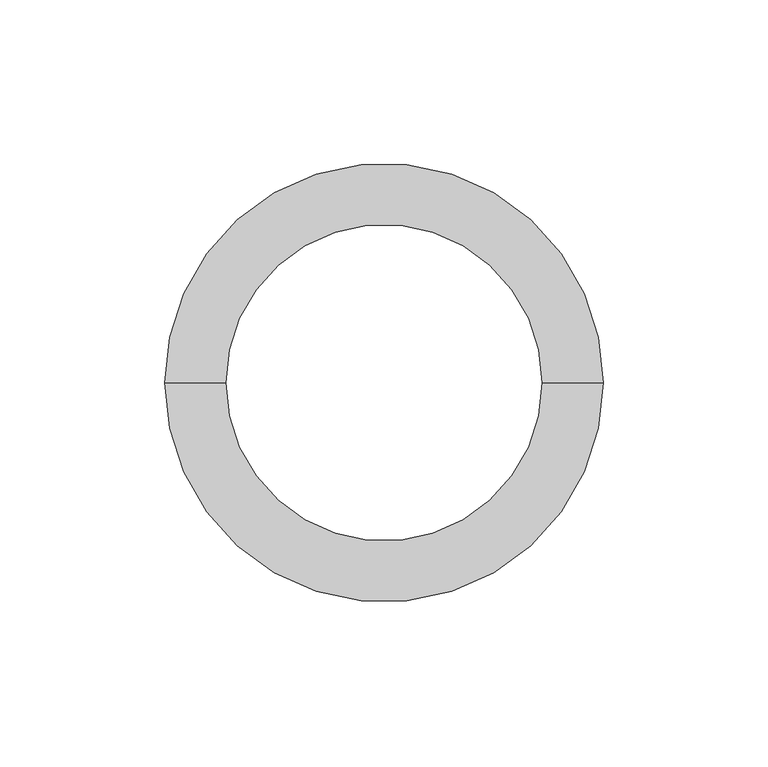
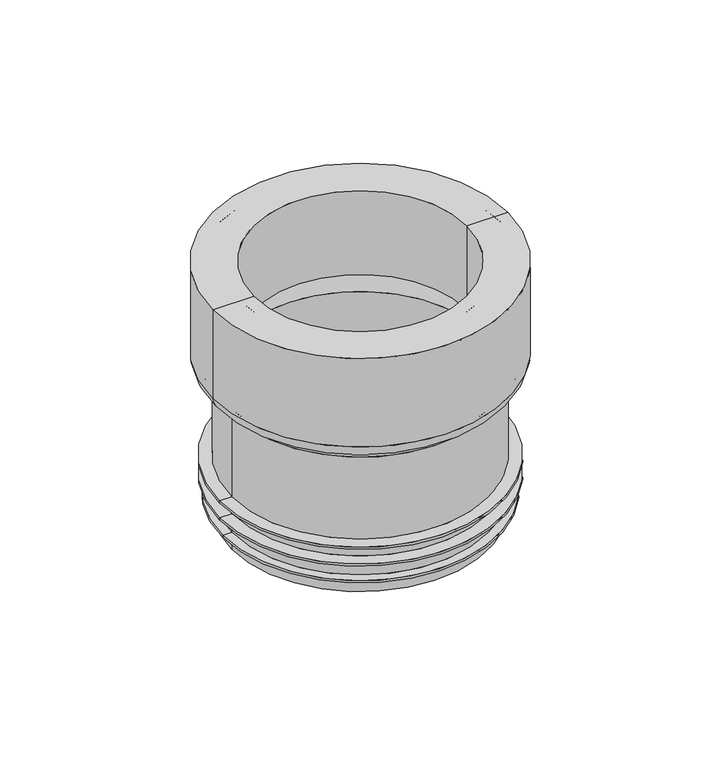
"""IFC4 building model written with IfcOpenShell, lengths in millimetres: sanitary terminal geometry, RSen_52_PIF_UN_closet connector no.4 w_wisa : closet connector_wisa_no 4 w white."""

from ifc_helpers import new_model, si_unit, point, frame, origin, origin_with_axes, place, context, project, spatial, polyline, circle_curve, ellipse_curve, trimmed, source, transform, mapped, element, save
from ifc_brep_helpers import plane_surface, cylinder_surface, revolved_surface, advanced_brep


def sanitary_terminal_8a359ba6(model_context):
    return source(origin(), model_context, "Body", "AdvancedBrep", [
        advanced_brep(
        [(-62.0, 0.0, -110.0), (62.0, 0.0, -110.0), (58.0, 0.0, -110.0), (-58.0, 0.0, -110.0), (-62.0, 0.0, -109.0), (62.0, 0.0, -109.0), (-58.0, 0.0, -109.0), (58.0, 0.0, -109.0), (-58.0, 0.0, -101.0), (58.0, 0.0, -101.0), (-63.5, 0.0, -101.0), (63.5, 0.0, -101.0), (-63.5, 0.0, -100.0363869), (63.5, 0.0, -100.0363869), (-58.0, 0.0, -100.0363869), (58.0, 0.0, -100.0363869), (-58.0, 0.0, -93.0363869), (58.0, 0.0, -93.0363869), (-63.5, 0.0, -93.0363869), (63.5, 0.0, -93.0363869), (-63.5, 0.0, -92.0409026), (63.5, 0.0, -92.0409026), (-58.0, 0.0, -92.0409026), (58.0, 0.0, -92.0409026), (-58.0, 0.0, -52.9576844), (58.0, 0.0, -52.9576844), (-66.5, 0.0, 0.0), (66.5, 0.0, 0.0), (66.5, 0.0, -42.1616545), (-66.5, 0.0, -42.1616545), (-48.0, 0.0, 0.0), (48.0, 0.0, 0.0), (-48.0, 0.0, -40.0), (48.0, 0.0, -40.0), (-58.0, 0.0, -117.0), (58.0, 0.0, -117.0), (55.0, 0.0, -117.0), (-55.0, 0.0, -117.0), (-51.0, 0.0, -40.0), (51.0, 0.0, -40.0), (-51.0, 0.0, -4.5), (51.0, 0.0, -4.5), (-52.5, 0.0, -3.0), (52.5, 0.0, -3.0), (-62.0, 0.0, -3.0), (62.0, 0.0, -3.0), (-63.5, 0.0, -4.5), (63.5, 0.0, -4.5), (-63.5, 0.0, -42.1616545), (63.5, 0.0, -42.1616545), (55.0, 0.0, -52.9576844), (-55.0, 0.0, -52.9576844), (-60.6319194, 0.0, -49.1989139), (60.6319194, 0.0, -49.1989139), (-61.894141, 0.0, -48.7395028), (61.894141, 0.0, -48.7395028), (-60.8680806, 0.0, -45.920425), (60.8680806, 0.0, -45.920425), (-59.605859, 0.0, -46.3798361), (59.605859, 0.0, -46.3798361)],
        [
            (0, 1, circle_curve(frame((0.0, 0.0, -110.0), z_axis=(0.0, 0.0, -1.0), x_axis=(1.0, 0.0, 0.0)), 62.0)),
            (1, 2),
            (2, 3, circle_curve(frame((0.0, 0.0, -110.0), z_axis=(0.0, 0.0, 1.0), x_axis=(1.0, 0.0, 0.0)), 58.0)),
            (3, 0),
            (1, 0, circle_curve(frame((0.0, 0.0, -110.0), z_axis=(0.0, 0.0, -1.0), x_axis=(1.0, 0.0, 0.0)), 62.0)),
            (3, 2, circle_curve(frame((0.0, 0.0, -110.0), z_axis=(0.0, 0.0, 1.0), x_axis=(1.0, 0.0, 0.0)), 58.0)),
            (4, 5, circle_curve(frame((0.0, 0.0, -109.0), z_axis=(0.0, 0.0, -1.0), x_axis=(1.0, 0.0, 0.0)), 62.0)),
            (5, 1),
            (0, 4),
            (5, 4, circle_curve(frame((0.0, 0.0, -109.0), z_axis=(0.0, 0.0, -1.0), x_axis=(1.0, 0.0, 0.0)), 62.0)),
            (6, 7, circle_curve(frame((0.0, 0.0, -109.0), z_axis=(0.0, 0.0, -1.0), x_axis=(1.0, 0.0, 0.0)), 58.0)),
            (7, 5),
            (4, 6),
            (7, 6, circle_curve(frame((0.0, 0.0, -109.0), z_axis=(0.0, 0.0, -1.0), x_axis=(1.0, 0.0, 0.0)), 58.0)),
            (8, 9, circle_curve(frame((0.0, 0.0, -101.0), z_axis=(0.0, 0.0, -1.0), x_axis=(1.0, 0.0, 0.0)), 58.0)),
            (9, 7),
            (6, 8),
            (9, 8, circle_curve(frame((0.0, 0.0, -101.0), z_axis=(0.0, 0.0, -1.0), x_axis=(1.0, 0.0, 0.0)), 58.0)),
            (10, 11, circle_curve(frame((0.0, 0.0, -101.0), z_axis=(0.0, 0.0, -1.0), x_axis=(1.0, 0.0, 0.0)), 63.5)),
            (11, 9),
            (8, 10),
            (11, 10, circle_curve(frame((0.0, 0.0, -101.0), z_axis=(0.0, 0.0, -1.0), x_axis=(1.0, 0.0, 0.0)), 63.5)),
            (12, 13, circle_curve(frame((0.0, 0.0, -100.0363869), z_axis=(0.0, 0.0, -1.0), x_axis=(1.0, 0.0, 0.0)), 63.5)),
            (13, 11),
            (10, 12),
            (13, 12, circle_curve(frame((0.0, 0.0, -100.0363869), z_axis=(0.0, 0.0, -1.0), x_axis=(1.0, 0.0, 0.0)), 63.5)),
            (14, 15, circle_curve(frame((0.0, 0.0, -100.0363869), z_axis=(0.0, 0.0, -1.0), x_axis=(1.0, 0.0, 0.0)), 58.0)),
            (15, 13),
            (12, 14),
            (15, 14, circle_curve(frame((0.0, 0.0, -100.0363869), z_axis=(0.0, 0.0, -1.0), x_axis=(1.0, 0.0, 0.0)), 58.0)),
            (16, 17, circle_curve(frame((0.0, 0.0, -93.0363869), z_axis=(0.0, 0.0, -1.0), x_axis=(1.0, 0.0, 0.0)), 58.0)),
            (17, 15),
            (14, 16),
            (17, 16, circle_curve(frame((0.0, 0.0, -93.0363869), z_axis=(0.0, 0.0, -1.0), x_axis=(1.0, 0.0, 0.0)), 58.0)),
            (18, 19, circle_curve(frame((0.0, 0.0, -93.0363869), z_axis=(0.0, 0.0, -1.0), x_axis=(1.0, 0.0, 0.0)), 63.5)),
            (19, 17),
            (16, 18),
            (19, 18, circle_curve(frame((0.0, 0.0, -93.0363869), z_axis=(0.0, 0.0, -1.0), x_axis=(1.0, 0.0, 0.0)), 63.5)),
            (20, 21, circle_curve(frame((0.0, 0.0, -92.0409026), z_axis=(0.0, 0.0, -1.0), x_axis=(1.0, 0.0, 0.0)), 63.5)),
            (21, 19),
            (18, 20),
            (21, 20, circle_curve(frame((0.0, 0.0, -92.0409026), z_axis=(0.0, 0.0, -1.0), x_axis=(1.0, 0.0, 0.0)), 63.5)),
            (22, 23, circle_curve(frame((0.0, 0.0, -92.0409026), z_axis=(0.0, 0.0, -1.0), x_axis=(1.0, 0.0, 0.0)), 58.0)),
            (23, 21),
            (20, 22),
            (23, 22, circle_curve(frame((0.0, 0.0, -92.0409026), z_axis=(0.0, 0.0, -1.0), x_axis=(1.0, 0.0, 0.0)), 58.0)),
            (24, 25, circle_curve(frame((0.0, 0.0, -52.9576844), z_axis=(0.0, 0.0, -1.0), x_axis=(1.0, 0.0, 0.0)), 58.0)),
            (25, 23),
            (22, 24),
            (25, 24, circle_curve(frame((0.0, 0.0, -52.9576844), z_axis=(0.0, 0.0, -1.0), x_axis=(1.0, 0.0, 0.0)), 58.0)),
            (26, 27, circle_curve(frame((0.0, 0.0, 0.0), z_axis=(0.0, 0.0, -1.0), x_axis=(1.0, 0.0, 0.0)), 66.5)),
            (27, 28),
            (28, 29, circle_curve(frame((0.0, 0.0, -42.1616545), z_axis=(0.0, 0.0, 1.0), x_axis=(1.0, 0.0, 0.0)), 66.5)),
            (29, 26),
            (27, 26, circle_curve(frame((0.0, 0.0, 0.0), z_axis=(0.0, 0.0, -1.0), x_axis=(1.0, 0.0, 0.0)), 66.5)),
            (29, 28, circle_curve(frame((0.0, 0.0, -42.1616545), z_axis=(0.0, 0.0, 1.0), x_axis=(1.0, 0.0, 0.0)), 66.5)),
            (30, 31, circle_curve(frame((0.0, 0.0, 0.0), z_axis=(0.0, 0.0, -1.0), x_axis=(1.0, 0.0, 0.0)), 48.0)),
            (31, 27),
            (26, 30),
            (31, 30, circle_curve(frame((0.0, 0.0, 0.0), z_axis=(0.0, 0.0, -1.0), x_axis=(1.0, 0.0, 0.0)), 48.0)),
            (32, 33, circle_curve(frame((0.0, 0.0, -40.0), z_axis=(0.0, 0.0, -1.0), x_axis=(1.0, 0.0, 0.0)), 48.0)),
            (33, 31),
            (30, 32),
            (33, 32, circle_curve(frame((0.0, 0.0, -40.0), z_axis=(0.0, 0.0, -1.0), x_axis=(1.0, 0.0, 0.0)), 48.0)),
            (34, 35, circle_curve(frame((0.0, 0.0, -117.0), z_axis=(0.0, 0.0, -1.0), x_axis=(1.0, 0.0, 0.0)), 58.0)),
            (35, 36),
            (36, 37, circle_curve(frame((0.0, 0.0, -117.0), z_axis=(0.0, 0.0, 1.0), x_axis=(1.0, 0.0, 0.0)), 55.0)),
            (37, 34),
            (35, 34, circle_curve(frame((0.0, 0.0, -117.0), z_axis=(0.0, 0.0, -1.0), x_axis=(1.0, 0.0, 0.0)), 58.0)),
            (37, 36, circle_curve(frame((0.0, 0.0, -117.0), z_axis=(0.0, 0.0, 1.0), x_axis=(1.0, 0.0, 0.0)), 55.0)),
            (2, 35),
            (34, 3),
            (38, 39, circle_curve(frame((0.0, 0.0, -40.0), z_axis=(0.0, 0.0, -1.0), x_axis=(1.0, 0.0, 0.0)), 51.0)),
            (39, 33),
            (32, 38),
            (39, 38, circle_curve(frame((0.0, 0.0, -40.0), z_axis=(0.0, 0.0, -1.0), x_axis=(1.0, 0.0, 0.0)), 51.0)),
            (40, 41, circle_curve(frame((0.0, 0.0, -4.5), z_axis=(0.0, 0.0, -1.0), x_axis=(1.0, 0.0, 0.0)), 51.0)),
            (41, 39),
            (38, 40),
            (41, 40, circle_curve(frame((0.0, 0.0, -4.5), z_axis=(0.0, 0.0, -1.0), x_axis=(1.0, 0.0, 0.0)), 51.0)),
            (42, 43, circle_curve(frame((0.0, 0.0, -3.0), z_axis=(0.0, 0.0, -1.0), x_axis=(1.0, 0.0, 0.0)), 52.5)),
            (43, 41, circle_curve(frame((52.5, 0.0, -4.5), z_axis=(0.0, -1.0, 0.0), x_axis=(1.0, 0.0, 0.0)), 1.5)),
            (40, 42, circle_curve(frame((-52.5, 0.0, -4.5), z_axis=(0.0, -1.0, 0.0), x_axis=(-1.0, 0.0, 0.0)), 1.5)),
            (43, 42, circle_curve(frame((0.0, 0.0, -3.0), z_axis=(0.0, 0.0, -1.0), x_axis=(1.0, 0.0, 0.0)), 52.5)),
            (44, 45, circle_curve(frame((0.0, 0.0, -3.0), z_axis=(0.0, 0.0, -1.0), x_axis=(1.0, 0.0, 0.0)), 62.0)),
            (45, 43),
            (42, 44),
            (45, 44, circle_curve(frame((0.0, 0.0, -3.0), z_axis=(0.0, 0.0, -1.0), x_axis=(1.0, 0.0, 0.0)), 62.0)),
            (46, 47, circle_curve(frame((0.0, 0.0, -4.5), z_axis=(0.0, 0.0, -1.0), x_axis=(1.0, 0.0, 0.0)), 63.5)),
            (47, 45, circle_curve(frame((62.0, 0.0, -4.5), z_axis=(0.0, -1.0, 0.0), x_axis=(1.0, 0.0, 0.0)), 1.5)),
            (44, 46, circle_curve(frame((-62.0, 0.0, -4.5), z_axis=(0.0, -1.0, 0.0), x_axis=(-1.0, 0.0, 0.0)), 1.5)),
            (47, 46, circle_curve(frame((0.0, 0.0, -4.5), z_axis=(0.0, 0.0, -1.0), x_axis=(1.0, 0.0, 0.0)), 63.5)),
            (48, 49, circle_curve(frame((0.0, 0.0, -42.1616545), z_axis=(0.0, 0.0, -1.0), x_axis=(1.0, 0.0, 0.0)), 63.5)),
            (49, 47),
            (46, 48),
            (49, 48, circle_curve(frame((0.0, 0.0, -42.1616545), z_axis=(0.0, 0.0, -1.0), x_axis=(1.0, 0.0, 0.0)), 63.5)),
            (36, 50),
            (50, 51, circle_curve(frame((0.0, 0.0, -52.9576844), z_axis=(0.0, 0.0, 1.0), x_axis=(1.0, 0.0, 0.0)), 55.0)),
            (51, 37),
            (51, 50, circle_curve(frame((0.0, 0.0, -52.9576844), z_axis=(0.0, 0.0, 1.0), x_axis=(1.0, 0.0, 0.0)), 55.0)),
            (52, 53, circle_curve(frame((0.0, 0.0, -49.1989139), z_axis=(0.0, 0.0, -1.0), x_axis=(1.0, 0.0, 0.0)), 60.6319194)),
            (53, 25, circle_curve(frame((62.0, 0.0, -52.9576844), z_axis=(0.0, -1.0, 0.0), x_axis=(1.0, 0.0, 0.0)), 4.0)),
            (24, 52, circle_curve(frame((-62.0, 0.0, -52.9576844), z_axis=(0.0, -1.0, 0.0), x_axis=(-1.0, 0.0, 0.0)), 4.0)),
            (53, 52, circle_curve(frame((0.0, 0.0, -49.1989139), z_axis=(0.0, 0.0, -1.0), x_axis=(1.0, 0.0, 0.0)), 60.6319194)),
            (54, 55, circle_curve(frame((0.0, 0.0, -48.7395028), z_axis=(0.0, 0.0, -1.0), x_axis=(1.0, 0.0, 0.0)), 61.894141)),
            (55, 53),
            (52, 54),
            (55, 54, circle_curve(frame((0.0, 0.0, -48.7395028), z_axis=(0.0, 0.0, -1.0), x_axis=(1.0, 0.0, 0.0)), 61.894141)),
            (28, 55, circle_curve(frame((59.5, 0.0, -42.1616545), z_axis=(0.0, 1.0, 0.0), x_axis=(1.0, 0.0, 0.0)), 7.0)),
            (54, 29, circle_curve(frame((-59.5, 0.0, -42.1616545), z_axis=(0.0, 1.0, 0.0), x_axis=(-1.0, 0.0, 0.0)), 7.0)),
            (56, 57, circle_curve(frame((0.0, 0.0, -45.920425), z_axis=(0.0, 0.0, -1.0), x_axis=(1.0, 0.0, 0.0)), 60.8680806)),
            (57, 49, circle_curve(frame((59.5, 0.0, -42.1616545), z_axis=(0.0, -1.0, 0.0), x_axis=(1.0, 0.0, 0.0)), 4.0)),
            (48, 56, circle_curve(frame((-59.5, 0.0, -42.1616545), z_axis=(0.0, -1.0, 0.0), x_axis=(-1.0, 0.0, 0.0)), 4.0)),
            (57, 56, circle_curve(frame((0.0, 0.0, -45.920425), z_axis=(0.0, 0.0, -1.0), x_axis=(1.0, 0.0, 0.0)), 60.8680806)),
            (58, 59, circle_curve(frame((0.0, 0.0, -46.3798361), z_axis=(0.0, 0.0, -1.0), x_axis=(1.0, 0.0, 0.0)), 59.605859)),
            (59, 57),
            (56, 58),
            (59, 58, circle_curve(frame((0.0, 0.0, -46.3798361), z_axis=(0.0, 0.0, -1.0), x_axis=(1.0, 0.0, 0.0)), 59.605859)),
            (50, 59, circle_curve(frame((62.0, 0.0, -52.9576844), z_axis=(0.0, 1.0, 0.0), x_axis=(1.0, 0.0, 0.0)), 7.0)),
            (58, 51, circle_curve(frame((-62.0, 0.0, -52.9576844), z_axis=(0.0, 1.0, 0.0), x_axis=(-1.0, 0.0, 0.0)), 7.0)),
        ],
        [
            plane_surface(frame((0.0, 0.0, -110.0), z_axis=(0.0, 0.0, -1.0), x_axis=(1.0, 0.0, 0.0))),
            cylinder_surface(frame((0.0, 0.0, 150.0), z_axis=(0.0, 0.0, 1.0), x_axis=(1.0, 0.0, 0.0)), 62.0),
            plane_surface(frame((0.0, 0.0, -109.0), z_axis=(0.0, 0.0, 1.0), x_axis=(1.0, 0.0, 0.0))),
            cylinder_surface(frame((0.0, 0.0, 150.0), z_axis=(0.0, 0.0, 1.0), x_axis=(1.0, 0.0, 0.0)), 58.0),
            plane_surface(frame((0.0, 0.0, -101.0), z_axis=(0.0, 0.0, -1.0), x_axis=(1.0, 0.0, 0.0))),
            cylinder_surface(frame((0.0, 0.0, 150.0), z_axis=(0.0, 0.0, 1.0), x_axis=(1.0, 0.0, 0.0)), 63.5),
            plane_surface(frame((0.0, 0.0, -100.0363869), z_axis=(0.0, 0.0, 1.0), x_axis=(1.0, 0.0, 0.0))),
            plane_surface(frame((0.0, 0.0, -93.0363869), z_axis=(0.0, 0.0, -1.0), x_axis=(1.0, 0.0, 0.0))),
            plane_surface(frame((0.0, 0.0, -92.0409026), z_axis=(0.0, 0.0, 1.0), x_axis=(1.0, 0.0, 0.0))),
            cylinder_surface(frame((0.0, 0.0, 150.0), z_axis=(0.0, 0.0, 1.0), x_axis=(1.0, 0.0, 0.0)), 66.5),
            plane_surface(origin_with_axes()),
            revolved_surface(polyline([(48.0, 0.0, 0.0), (48.0, 0.0, -40.0)]), (0.0, 0.0, 150.0), (0.0, 0.0, 1.0)),
            plane_surface(frame((0.0, 0.0, -117.0), z_axis=(0.0, 0.0, -1.0), x_axis=(1.0, 0.0, 0.0))),
            plane_surface(frame((0.0, 0.0, -40.0), z_axis=(0.0, 0.0, -1.0), x_axis=(1.0, 0.0, 0.0))),
            cylinder_surface(frame((0.0, 0.0, 150.0), z_axis=(0.0, 0.0, 1.0), x_axis=(1.0, 0.0, 0.0)), 51.0),
            revolved_surface(trimmed(ellipse_curve(frame((52.5, 0.0, -4.5), z_axis=(0.0, 1.0, 0.0), x_axis=(1.0, 0.0, 0.0)), 1.5, 1.5), [point((51.0, 0.0, -4.5))], [point((52.5, 0.0, -3.0))], True, "CARTESIAN"), (0.0, 0.0, 150.0), (0.0, 0.0, 1.0)),
            plane_surface(frame((0.0, 0.0, -3.0), z_axis=(0.0, 0.0, -1.0), x_axis=(1.0, 0.0, 0.0))),
            revolved_surface(trimmed(ellipse_curve(frame((62.0, 0.0, -4.5), z_axis=(0.0, 1.0, 0.0), x_axis=(1.0, 0.0, 0.0)), 1.5, 1.5), [point((62.0, 0.0, -3.0))], [point((63.5, 0.0, -4.5))], True, "CARTESIAN"), (0.0, 0.0, 150.0), (0.0, 0.0, 1.0)),
            revolved_surface(polyline([(63.5, 0.0, -4.5), (63.5, 0.0, -42.1616545)]), (0.0, 0.0, 150.0), (0.0, 0.0, 1.0)),
            revolved_surface(polyline([(55.0, 0.0, -52.957684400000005), (55.0, 0.0, -117.0)]), (0.0, 0.0, 150.0), (0.0, 0.0, 1.0)),
            revolved_surface(trimmed(ellipse_curve(frame((62.0, 0.0, -52.9576844), z_axis=(0.0, 1.0, 0.0), x_axis=(1.0, 0.0, 0.0)), 4.0, 4.0), [point((58.0, 0.0, -52.9576844))], [point((60.6319194, 0.0, -49.1989139))], True, "CARTESIAN"), (0.0, 0.0, 150.0), (0.0, 0.0, 1.0)),
            revolved_surface(polyline([(60.6319194, 0.0, -49.1989139), (61.894141, 0.0, -48.7395028)]), (0.0, 0.0, 150.0), (0.0, 0.0, 1.0)),
            revolved_surface(trimmed(ellipse_curve(frame((59.5, 0.0, -42.1616545), z_axis=(0.0, -1.0, 0.0), x_axis=(1.0, 0.0, 0.0)), 7.0, 7.0), [point((61.894141, 0.0, -48.7395028))], [point((66.5, 0.0, -42.1616545))], True, "CARTESIAN"), (0.0, 0.0, 150.0), (0.0, 0.0, 1.0)),
            revolved_surface(trimmed(ellipse_curve(frame((59.5, 0.0, -42.1616545), z_axis=(0.0, 1.0, 0.0), x_axis=(1.0, 0.0, 0.0)), 4.0, 4.0), [point((63.5, 0.0, -42.1616545))], [point((60.8680806, 0.0, -45.920425))], True, "CARTESIAN"), (0.0, 0.0, 150.0), (0.0, 0.0, 1.0)),
            revolved_surface(polyline([(60.8680806, 0.0, -45.920425), (59.605859, 0.0, -46.3798361)]), (0.0, 0.0, 150.0), (0.0, 0.0, 1.0)),
            revolved_surface(trimmed(ellipse_curve(frame((62.0, 0.0, -52.9576844), z_axis=(0.0, -1.0, 0.0), x_axis=(1.0, 0.0, 0.0)), 7.0, 7.0), [point((59.605859, 0.0, -46.3798361))], [point((55.0, 0.0, -52.9576844))], True, "CARTESIAN"), (0.0, 0.0, 150.0), (0.0, 0.0, 1.0)),
        ],
        [
            (0, [[1, 2, 3, 4]]),
            (0, [[5, -4, 6, -2]]),
            (1, [[7, 8, -1, 9]]),
            (1, [[10, -9, -5, -8]]),
            (2, [[11, 12, -7, 13]]),
            (2, [[14, -13, -10, -12]]),
            (3, [[15, 16, -11, 17]]),
            (3, [[18, -17, -14, -16]]),
            (4, [[19, 20, -15, 21]]),
            (4, [[22, -21, -18, -20]]),
            (5, [[23, 24, -19, 25]]),
            (5, [[26, -25, -22, -24]]),
            (6, [[27, 28, -23, 29]]),
            (6, [[30, -29, -26, -28]]),
            (3, [[31, 32, -27, 33]]),
            (3, [[34, -33, -30, -32]]),
            (7, [[35, 36, -31, 37]]),
            (7, [[38, -37, -34, -36]]),
            (5, [[39, 40, -35, 41]]),
            (5, [[42, -41, -38, -40]]),
            (8, [[43, 44, -39, 45]]),
            (8, [[46, -45, -42, -44]]),
            (3, [[47, 48, -43, 49]]),
            (3, [[50, -49, -46, -48]]),
            (9, [[51, 52, 53, 54]]),
            (9, [[55, -54, 56, -52]]),
            (10, [[57, 58, -51, 59]]),
            (10, [[60, -59, -55, -58]]),
            (11, [[61, 62, -57, 63]]),
            (11, [[64, -63, -60, -62]]),
            (12, [[65, 66, 67, 68]]),
            (12, [[69, -68, 70, -66]]),
            (3, [[-3, 71, -65, 72]]),
            (3, [[-6, -72, -69, -71]]),
            (13, [[73, 74, -61, 75]]),
            (13, [[76, -75, -64, -74]]),
            (14, [[77, 78, -73, 79]]),
            (14, [[80, -79, -76, -78]]),
            (15, [[81, 82, -77, 83]]),
            (15, [[84, -83, -80, -82]]),
            (16, [[85, 86, -81, 87]]),
            (16, [[88, -87, -84, -86]]),
            (17, [[89, 90, -85, 91]]),
            (17, [[92, -91, -88, -90]]),
            (18, [[93, 94, -89, 95]]),
            (18, [[96, -95, -92, -94]]),
            (19, [[-67, 97, 98, 99]]),
            (19, [[-70, -99, 100, -97]]),
            (20, [[101, 102, -47, 103]]),
            (20, [[104, -103, -50, -102]]),
            (21, [[105, 106, -101, 107]]),
            (21, [[108, -107, -104, -106]]),
            (22, [[-53, 109, -105, 110]]),
            (22, [[-56, -110, -108, -109]]),
            (23, [[111, 112, -93, 113]]),
            (23, [[114, -113, -96, -112]]),
            (24, [[115, 116, -111, 117]]),
            (24, [[118, -117, -114, -116]]),
            (25, [[-98, 119, -115, 120]]),
            (25, [[-100, -120, -118, -119]]),
        ],
    ),
    ])


if __name__ == "__main__":
    model = new_model("IFC4")
    model_context = context("Model", 3, world=origin())
    ifc_project = project(units=[si_unit("LENGTHUNIT", "METRE", prefix="MILLI")], contexts=[model_context])
    site = spatial("IfcSite", under=ifc_project)
    building = spatial("IfcBuilding", under=site)
    placement = place(None, origin())
    sanitary_terminal_shape = sanitary_terminal_8a359ba6(model_context)
    element("IfcSanitaryTerminal", 1, ObjectType="RSen_52_PIF_UN_closet connector no.4 w_wisa : closet connector_wisa_no 4 w white", at=placement, inside=building, context=model_context, shape_type="MappedRepresentation", body=[
        mapped(sanitary_terminal_shape, transform((0.0, 0.0, 0.0), x_axis=(1.0, 0.0, 0.0), y_axis=(0.0, 1.0, 0.0), z_axis=(0.0, 0.0, 1.0))),
    ])
    save(model, "model.ifc")
